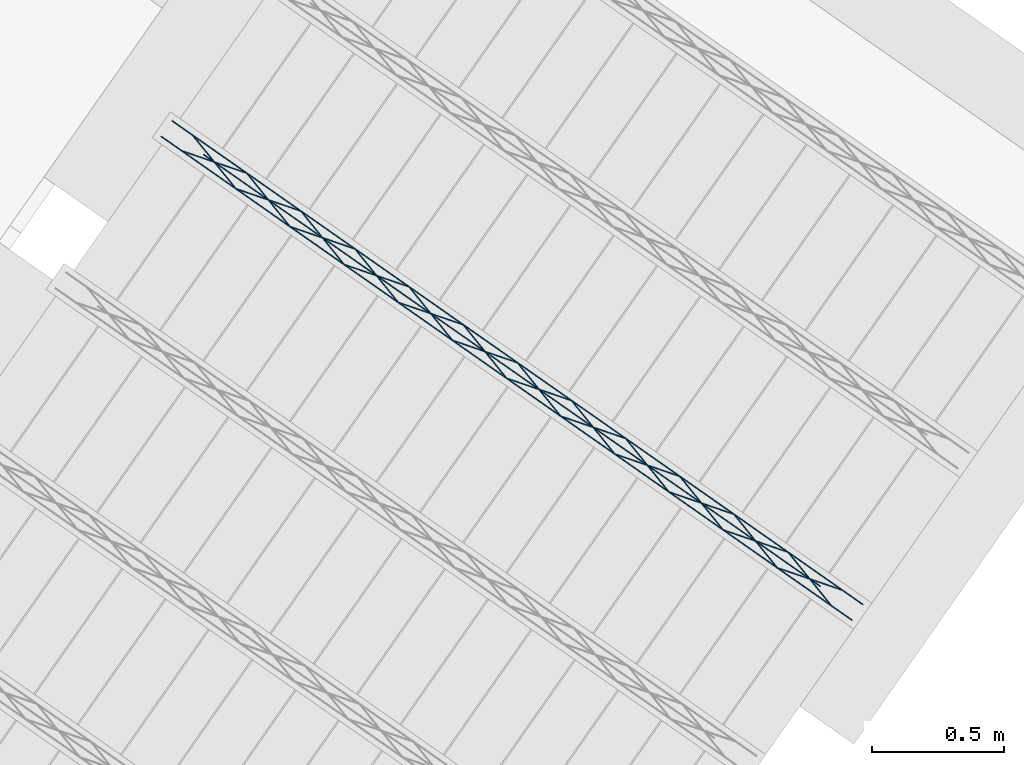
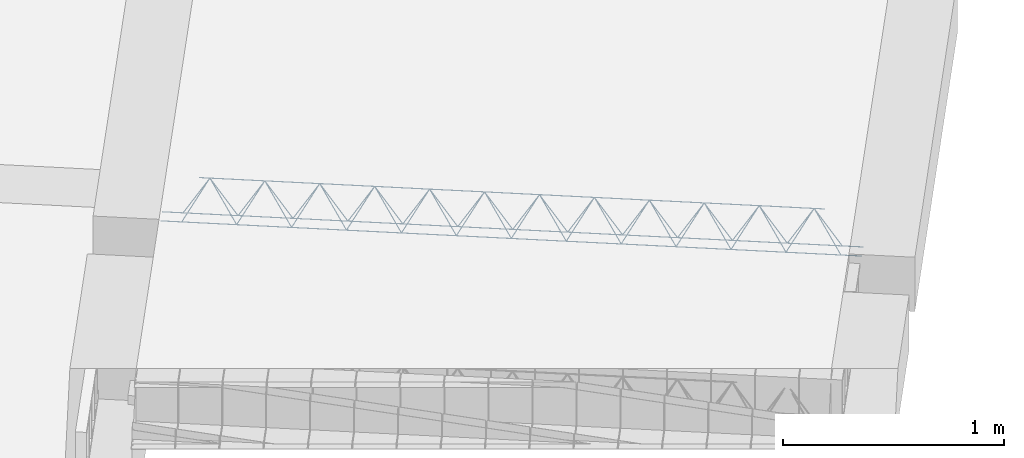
# One storey, part 13 of 46: 1 member.
"""IFC2X3 building model written with IfcOpenShell, lengths in metres."""

from ifc_helpers import new_model, entity, si_unit, converted_unit, derived_unit, direction, frame, origin, origin_2d_with_axis, place, context, subcontext, project, spatial, circle, extrude, type_object, element, save


model = new_model("IFC2X3")

# Units and contexts
model_context = context("Model", 3, precision=1e-05, world=origin(), true_north=direction((6.123031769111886e-17, 1.0)))
body_context = subcontext(model_context, "Body", "Model", "MODEL_VIEW")
ifc_project = project(units=[si_unit("LENGTHUNIT", "METRE"), si_unit("AREAUNIT", "SQUARE_METRE"), si_unit("VOLUMEUNIT", "CUBIC_METRE"), converted_unit("PLANEANGLEUNIT", "DEGREE", entity("IfcPlaneAngleMeasure", 0.017453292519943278), si_unit("PLANEANGLEUNIT", "RADIAN"), dimensions=[0, 0, 0, 0, 0, 0, 0]), si_unit("MASSUNIT", "GRAM", prefix="KILO"), derived_unit("MASSDENSITYUNIT", [(si_unit("MASSUNIT", "GRAM", prefix="KILO"), 1), (si_unit("LENGTHUNIT", "METRE"), -3)]), derived_unit("IONCONCENTRATIONUNIT", [(si_unit("MASSUNIT", "GRAM", prefix="KILO"), 1), (si_unit("LENGTHUNIT", "METRE"), -3)]), derived_unit("MOMENTOFINERTIAUNIT", [(si_unit("LENGTHUNIT", "METRE"), 4)]), si_unit("TIMEUNIT", "SECOND"), si_unit("FREQUENCYUNIT", "HERTZ"), si_unit("THERMODYNAMICTEMPERATUREUNIT", "DEGREE_CELSIUS"), derived_unit("THERMALTRANSMITTANCEUNIT", [(si_unit("MASSUNIT", "GRAM", prefix="KILO"), 1), (si_unit("THERMODYNAMICTEMPERATUREUNIT", "KELVIN"), -1), (si_unit("TIMEUNIT", "SECOND"), -3)]), derived_unit("THERMALCONDUCTANCEUNIT", [(si_unit("MASSUNIT", "GRAM", prefix="KILO"), 1), (si_unit("THERMODYNAMICTEMPERATUREUNIT", "KELVIN"), -1), (si_unit("TIMEUNIT", "SECOND"), -3), (si_unit("LENGTHUNIT", "METRE"), 1)]), derived_unit("VOLUMETRICFLOWRATEUNIT", [(si_unit("LENGTHUNIT", "METRE", prefix="DECI"), 3), (si_unit("TIMEUNIT", "SECOND"), -1)]), derived_unit("MASSFLOWRATEUNIT", [(si_unit("MASSUNIT", "GRAM", prefix="KILO"), 1), (si_unit("TIMEUNIT", "SECOND"), -1)]), derived_unit("ROTATIONALFREQUENCYUNIT", [(si_unit("TIMEUNIT", "SECOND"), -1)]), si_unit("ELECTRICCURRENTUNIT", "AMPERE"), si_unit("ELECTRICVOLTAGEUNIT", "VOLT"), si_unit("POWERUNIT", "WATT"), si_unit("FORCEUNIT", "NEWTON", prefix="KILO"), si_unit("ILLUMINANCEUNIT", "LUX"), si_unit("LUMINOUSFLUXUNIT", "LUMEN"), si_unit("LUMINOUSINTENSITYUNIT", "CANDELA"), si_unit("ENERGYUNIT", "JOULE"), derived_unit("USERDEFINED", [(si_unit("MASSUNIT", "GRAM", prefix="KILO"), -1), (si_unit("LENGTHUNIT", "METRE"), -2), (si_unit("TIMEUNIT", "SECOND"), 3), (si_unit("LUMINOUSFLUXUNIT", "LUMEN"), 1)]), derived_unit("USERDEFINED", [(si_unit("MASSUNIT", "GRAM", prefix="KILO"), 1), (si_unit("TIMEUNIT", "SECOND"), -3), (si_unit("LENGTHUNIT", "METRE"), 3), (si_unit("ELECTRICCURRENTUNIT", "AMPERE"), -2)]), derived_unit("SOUNDPOWERUNIT", [(si_unit("MASSUNIT", "GRAM", prefix="KILO"), 1), (si_unit("TIMEUNIT", "SECOND"), -3), (si_unit("LENGTHUNIT", "METRE"), 2)]), derived_unit("SOUNDPRESSUREUNIT", [(si_unit("MASSUNIT", "GRAM", prefix="KILO"), 1), (si_unit("LENGTHUNIT", "METRE"), -1), (si_unit("TIMEUNIT", "SECOND"), -2)]), derived_unit("LINEARVELOCITYUNIT", [(si_unit("LENGTHUNIT", "METRE"), 1), (si_unit("TIMEUNIT", "SECOND"), -1)]), si_unit("PRESSUREUNIT", "PASCAL"), derived_unit("USERDEFINED", [(si_unit("MASSUNIT", "GRAM", prefix="KILO"), 1), (si_unit("LENGTHUNIT", "METRE"), -2), (si_unit("TIMEUNIT", "SECOND"), -2)]), derived_unit("LINEARFORCEUNIT", [(si_unit("MASSUNIT", "GRAM", prefix="KILO"), 1), (si_unit("TIMEUNIT", "SECOND"), -2)]), derived_unit("PLANARFORCEUNIT", [(si_unit("MASSUNIT", "GRAM", prefix="KILO"), 1), (si_unit("LENGTHUNIT", "METRE"), -1), (si_unit("TIMEUNIT", "SECOND"), -2)]), derived_unit("SPECIFICHEATCAPACITYUNIT", [(si_unit("THERMODYNAMICTEMPERATUREUNIT", "KELVIN"), -1), (si_unit("LENGTHUNIT", "METRE"), 2), (si_unit("TIMEUNIT", "SECOND"), -2)]), derived_unit("HEATFLUXDENSITYUNIT", [(si_unit("MASSUNIT", "GRAM", prefix="KILO"), 1), (si_unit("TIMEUNIT", "SECOND"), -3)]), derived_unit("HEATINGVALUEUNIT", [(si_unit("LENGTHUNIT", "METRE"), 2), (si_unit("TIMEUNIT", "SECOND"), -2)]), derived_unit("VAPORPERMEABILITYUNIT", [(si_unit("LENGTHUNIT", "METRE"), -1), (si_unit("TIMEUNIT", "SECOND"), 1)]), derived_unit("DYNAMICVISCOSITYUNIT", [(si_unit("MASSUNIT", "GRAM", prefix="KILO"), 1), (si_unit("TIMEUNIT", "SECOND"), -1), (si_unit("LENGTHUNIT", "METRE"), -1)]), derived_unit("THERMALEXPANSIONCOEFFICIENTUNIT", [(si_unit("THERMODYNAMICTEMPERATUREUNIT", "KELVIN"), -1)]), derived_unit("MODULUSOFELASTICITYUNIT", [(si_unit("MASSUNIT", "GRAM", prefix="KILO"), 1), (si_unit("LENGTHUNIT", "METRE"), -1), (si_unit("TIMEUNIT", "SECOND"), -2)]), derived_unit("ISOTHERMALMOISTURECAPACITYUNIT", [(si_unit("MASSUNIT", "GRAM", prefix="KILO"), -1), (si_unit("LENGTHUNIT", "METRE"), 3)]), derived_unit("MOISTUREDIFFUSIVITYUNIT", [(si_unit("TIMEUNIT", "SECOND"), -1), (si_unit("LENGTHUNIT", "METRE"), 2)]), derived_unit("MASSPERLENGTHUNIT", [(si_unit("MASSUNIT", "GRAM", prefix="KILO"), 1), (si_unit("LENGTHUNIT", "METRE"), -1)]), derived_unit("THERMALRESISTANCEUNIT", [(si_unit("MASSUNIT", "GRAM", prefix="KILO"), -1), (si_unit("TIMEUNIT", "SECOND"), 3), (si_unit("THERMODYNAMICTEMPERATUREUNIT", "KELVIN"), 1)]), derived_unit("ACCELERATIONUNIT", [(si_unit("LENGTHUNIT", "METRE"), 1), (si_unit("TIMEUNIT", "SECOND"), -2)]), derived_unit("ANGULARVELOCITYUNIT", [(si_unit("TIMEUNIT", "SECOND"), -1), (si_unit("PLANEANGLEUNIT", "RADIAN"), 1)]), derived_unit("LINEARSTIFFNESSUNIT", [(si_unit("MASSUNIT", "GRAM", prefix="KILO"), 1), (si_unit("TIMEUNIT", "SECOND"), -2)]), derived_unit("WARPINGCONSTANTUNIT", [(si_unit("LENGTHUNIT", "METRE"), 6)]), derived_unit("LINEARMOMENTUNIT", [(si_unit("MASSUNIT", "GRAM", prefix="KILO"), 1), (si_unit("LENGTHUNIT", "METRE"), 1), (si_unit("TIMEUNIT", "SECOND"), -2)]), derived_unit("TORQUEUNIT", [(si_unit("MASSUNIT", "GRAM", prefix="KILO"), 1), (si_unit("LENGTHUNIT", "METRE"), 2), (si_unit("TIMEUNIT", "SECOND"), -2)])], contexts=[model_context])

# Site, building, storey
site_placement = place(None, origin())
site = spatial("IfcSite", under=ifc_project, at=site_placement, Name="Default", CompositionType="ELEMENT")
building_placement = place(site_placement, origin())
building = spatial("IfcBuilding", under=site, at=building_placement, CompositionType="ELEMENT")
storey_placement = place(building_placement, frame((0.0, 0.0, 99.52000000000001)))
storey = spatial("IfcBuildingStorey", under=building, at=storey_placement, Name="F1", CompositionType="ELEMENT", Elevation=99.52000000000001)

# Member
member_type = type_object("IfcMemberType", Name="Celosía (Vigueta 7 - Paño 4)", PredefinedType="NOTDEFINED")
member_placement = place(storey_placement, origin())
element("IfcMember", 1, at=member_placement, inside=storey, type_object=member_type, Name="Celosía (Vigueta 7 - Paño 4)", context=body_context, shape_type="SweptSolid", body=[
    extrude(circle(Radius=0.0025, at=origin_2d_with_axis()), frame((6.86345115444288, -0.39361636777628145, 0.22500000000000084), z_axis=(0.8191520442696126, -0.5735764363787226, 0.0), x_axis=(-0.5735764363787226, -0.8191520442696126, 0.0)), (0.0, 0.0, 1.0), 3.191999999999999),
    extrude(circle(Radius=0.0025, at=origin_2d_with_axis()), frame((7.024174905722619, -0.46220846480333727, 0.4500000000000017), z_axis=(0.8191520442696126, -0.5735764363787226, 0.0), x_axis=(-0.5735764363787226, -0.8191520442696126, 0.0)), (0.0, 0.0, 1.0), 2.849999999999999),
    extrude(circle(Radius=0.0025, at=origin_2d_with_axis()), frame((9.3995458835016, -2.169409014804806, 0.22500000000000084), z_axis=(-0.3145304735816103, 0.389334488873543, 0.8657304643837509), x_axis=(-0.7778747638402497, -0.6284193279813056, 0.0)), (0.0, 0.0, 1.0), 0.2598961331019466),
    extrude(circle(Radius=0.0025, at=origin_2d_with_axis()), frame((9.19475787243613, -2.026014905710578, 0.22499999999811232), z_axis=(0.47343050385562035, -0.1624017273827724, 0.8657304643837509), x_axis=(-0.3244721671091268, -0.9458952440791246, 0.0)), (0.0, 0.0, 1.0), 0.25989613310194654),
    extrude(circle(Radius=0.0025, at=origin_2d_with_axis()), frame((9.194757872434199, -2.026014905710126, 0.22500000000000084), z_axis=(-0.3145304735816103, 0.389334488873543, 0.8657304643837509), x_axis=(-0.7778747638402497, -0.6284193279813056, 0.0)), (0.0, 0.0, 1.0), 0.2598961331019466),
    extrude(circle(Radius=0.0025, at=origin_2d_with_axis()), frame((8.989969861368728, -1.882620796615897, 0.22499999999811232), z_axis=(0.47343050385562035, -0.1624017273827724, 0.8657304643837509), x_axis=(-0.3244721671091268, -0.9458952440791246, 0.0)), (0.0, 0.0, 1.0), 0.25989613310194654),
    extrude(circle(Radius=0.0025, at=origin_2d_with_axis()), frame((8.989969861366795, -1.8826207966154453, 0.22500000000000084), z_axis=(-0.3145304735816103, 0.389334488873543, 0.8657304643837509), x_axis=(-0.7778747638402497, -0.6284193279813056, 0.0)), (0.0, 0.0, 1.0), 0.2598961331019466),
    extrude(circle(Radius=0.0025, at=origin_2d_with_axis()), frame((8.785181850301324, -1.7392266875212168, 0.22499999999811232), z_axis=(0.47343050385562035, -0.1624017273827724, 0.8657304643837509), x_axis=(-0.3244721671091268, -0.9458952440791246, 0.0)), (0.0, 0.0, 1.0), 0.25989613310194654),
    extrude(circle(Radius=0.0025, at=origin_2d_with_axis()), frame((8.785181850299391, -1.7392266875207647, 0.22500000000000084), z_axis=(-0.3145304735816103, 0.389334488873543, 0.8657304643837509), x_axis=(-0.7778747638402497, -0.6284193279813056, 0.0)), (0.0, 0.0, 1.0), 0.2598961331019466),
    extrude(circle(Radius=0.0025, at=origin_2d_with_axis()), frame((8.580393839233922, -1.595832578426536, 0.22499999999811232), z_axis=(0.47343050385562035, -0.1624017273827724, 0.8657304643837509), x_axis=(-0.3244721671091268, -0.9458952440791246, 0.0)), (0.0, 0.0, 1.0), 0.25989613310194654),
    extrude(circle(Radius=0.0025, at=origin_2d_with_axis()), frame((8.580393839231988, -1.5958325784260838, 0.22500000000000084), z_axis=(-0.3145304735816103, 0.389334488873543, 0.8657304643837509), x_axis=(-0.7778747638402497, -0.6284193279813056, 0.0)), (0.0, 0.0, 1.0), 0.2598961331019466),
    extrude(circle(Radius=0.0025, at=origin_2d_with_axis()), frame((8.375605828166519, -1.4524384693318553, 0.22499999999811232), z_axis=(0.47343050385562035, -0.1624017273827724, 0.8657304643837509), x_axis=(-0.3244721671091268, -0.9458952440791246, 0.0)), (0.0, 0.0, 1.0), 0.25989613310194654),
    extrude(circle(Radius=0.0025, at=origin_2d_with_axis()), frame((8.375605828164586, -1.4524384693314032, 0.22500000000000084), z_axis=(-0.3145304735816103, 0.389334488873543, 0.8657304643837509), x_axis=(-0.7778747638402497, -0.6284193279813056, 0.0)), (0.0, 0.0, 1.0), 0.2598961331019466),
    extrude(circle(Radius=0.0025, at=origin_2d_with_axis()), frame((8.170817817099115, -1.3090443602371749, 0.22499999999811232), z_axis=(0.47343050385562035, -0.1624017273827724, 0.8657304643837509), x_axis=(-0.3244721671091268, -0.9458952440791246, 0.0)), (0.0, 0.0, 1.0), 0.25989613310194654),
    extrude(circle(Radius=0.0025, at=origin_2d_with_axis()), frame((8.170817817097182, -1.3090443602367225, 0.22500000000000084), z_axis=(-0.3145304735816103, 0.389334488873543, 0.8657304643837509), x_axis=(-0.7778747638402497, -0.6284193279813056, 0.0)), (0.0, 0.0, 1.0), 0.2598961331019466),
    extrude(circle(Radius=0.0025, at=origin_2d_with_axis()), frame((7.966029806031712, -1.165650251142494, 0.22499999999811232), z_axis=(0.47343050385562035, -0.1624017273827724, 0.8657304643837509), x_axis=(-0.3244721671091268, -0.9458952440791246, 0.0)), (0.0, 0.0, 1.0), 0.25989613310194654),
    extrude(circle(Radius=0.0025, at=origin_2d_with_axis()), frame((7.966029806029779, -1.165650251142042, 0.22500000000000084), z_axis=(-0.3145304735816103, 0.389334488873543, 0.8657304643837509), x_axis=(-0.7778747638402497, -0.6284193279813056, 0.0)), (0.0, 0.0, 1.0), 0.2598961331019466),
    extrude(circle(Radius=0.0025, at=origin_2d_with_axis()), frame((7.761241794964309, -1.0222561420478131, 0.22499999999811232), z_axis=(0.47343050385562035, -0.1624017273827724, 0.8657304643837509), x_axis=(-0.3244721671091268, -0.9458952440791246, 0.0)), (0.0, 0.0, 1.0), 0.25989613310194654),
    extrude(circle(Radius=0.0025, at=origin_2d_with_axis()), frame((7.761241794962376, -1.0222561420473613, 0.22500000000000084), z_axis=(-0.3145304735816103, 0.389334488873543, 0.8657304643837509), x_axis=(-0.7778747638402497, -0.6284193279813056, 0.0)), (0.0, 0.0, 1.0), 0.2598961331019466),
    extrude(circle(Radius=0.0025, at=origin_2d_with_axis()), frame((7.556453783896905, -0.8788620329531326, 0.22499999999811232), z_axis=(0.47343050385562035, -0.1624017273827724, 0.8657304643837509), x_axis=(-0.3244721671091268, -0.9458952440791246, 0.0)), (0.0, 0.0, 1.0), 0.25989613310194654),
    extrude(circle(Radius=0.0025, at=origin_2d_with_axis()), frame((7.556453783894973, -0.8788620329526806, 0.22500000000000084), z_axis=(-0.3145304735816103, 0.389334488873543, 0.8657304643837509), x_axis=(-0.7778747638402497, -0.6284193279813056, 0.0)), (0.0, 0.0, 1.0), 0.2598961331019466),
    extrude(circle(Radius=0.0025, at=origin_2d_with_axis()), frame((7.351665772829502, -0.735467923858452, 0.22499999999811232), z_axis=(0.47343050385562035, -0.1624017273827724, 0.8657304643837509), x_axis=(-0.3244721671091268, -0.9458952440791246, 0.0)), (0.0, 0.0, 1.0), 0.25989613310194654),
    extrude(circle(Radius=0.0025, at=origin_2d_with_axis()), frame((7.3516657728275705, -0.7354679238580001, 0.22500000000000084), z_axis=(-0.3145304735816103, 0.389334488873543, 0.8657304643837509), x_axis=(-0.7778747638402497, -0.6284193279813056, 0.0)), (0.0, 0.0, 1.0), 0.2598961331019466),
    extrude(circle(Radius=0.0025, at=origin_2d_with_axis()), frame((7.1468777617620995, -0.5920738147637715, 0.22499999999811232), z_axis=(0.47343050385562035, -0.1624017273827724, 0.8657304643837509), x_axis=(-0.3244721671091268, -0.9458952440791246, 0.0)), (0.0, 0.0, 1.0), 0.25989613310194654),
    extrude(circle(Radius=0.0025, at=origin_2d_with_axis()), frame((7.146877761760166, -0.5920738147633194, 0.22500000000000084), z_axis=(-0.3145304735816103, 0.389334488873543, 0.8657304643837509), x_axis=(-0.7778747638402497, -0.6284193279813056, 0.0)), (0.0, 0.0, 1.0), 0.2598961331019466),
    extrude(circle(Radius=0.0025, at=origin_2d_with_axis()), frame((6.942089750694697, -0.44867970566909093, 0.22499999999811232), z_axis=(0.47343050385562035, -0.1624017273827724, 0.8657304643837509), x_axis=(-0.3244721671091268, -0.9458952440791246, 0.0)), (0.0, 0.0, 1.0), 0.25989613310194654),
    extrude(circle(Radius=0.0025, at=origin_2d_with_axis()), frame((6.904748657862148, -0.33463742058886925, 0.22500000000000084), z_axis=(0.8191520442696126, -0.5735764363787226, 0.0), x_axis=(-0.5735764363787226, -0.8191520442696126, 0.0)), (0.0, 0.0, 1.0), 3.191999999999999),
    extrude(circle(Radius=0.0025, at=origin_2d_with_axis()), frame((9.44084338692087, -2.1104300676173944, 0.22500000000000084), z_axis=(-0.47343050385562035, 0.1624017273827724, 0.8657304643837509), x_axis=(-0.3244721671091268, -0.9458952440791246, 0.0)), (0.0, 0.0, 1.0), 0.25989613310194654),
    extrude(circle(Radius=0.0025, at=origin_2d_with_axis()), frame((9.236055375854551, -1.9670359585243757, 0.22499999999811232), z_axis=(0.3145304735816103, -0.389334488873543, 0.8657304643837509), x_axis=(-0.7778747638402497, -0.6284193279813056, 0.0)), (0.0, 0.0, 1.0), 0.2598961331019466),
    extrude(circle(Radius=0.0025, at=origin_2d_with_axis()), frame((9.236055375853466, -1.9670359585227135, 0.22500000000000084), z_axis=(-0.47343050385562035, 0.1624017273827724, 0.8657304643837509), x_axis=(-0.3244721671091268, -0.9458952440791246, 0.0)), (0.0, 0.0, 1.0), 0.25989613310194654),
    extrude(circle(Radius=0.0025, at=origin_2d_with_axis()), frame((9.031267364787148, -1.8236418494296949, 0.22499999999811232), z_axis=(0.3145304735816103, -0.389334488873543, 0.8657304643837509), x_axis=(-0.7778747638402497, -0.6284193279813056, 0.0)), (0.0, 0.0, 1.0), 0.2598961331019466),
    extrude(circle(Radius=0.0025, at=origin_2d_with_axis()), frame((9.031267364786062, -1.823641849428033, 0.22500000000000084), z_axis=(-0.47343050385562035, 0.1624017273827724, 0.8657304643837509), x_axis=(-0.3244721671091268, -0.9458952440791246, 0.0)), (0.0, 0.0, 1.0), 0.25989613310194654),
    extrude(circle(Radius=0.0025, at=origin_2d_with_axis()), frame((8.826479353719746, -1.6802477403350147, 0.22499999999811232), z_axis=(0.3145304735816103, -0.389334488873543, 0.8657304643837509), x_axis=(-0.7778747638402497, -0.6284193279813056, 0.0)), (0.0, 0.0, 1.0), 0.2598961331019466),
    extrude(circle(Radius=0.0025, at=origin_2d_with_axis()), frame((8.826479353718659, -1.6802477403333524, 0.22500000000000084), z_axis=(-0.47343050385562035, 0.1624017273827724, 0.8657304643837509), x_axis=(-0.3244721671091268, -0.9458952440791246, 0.0)), (0.0, 0.0, 1.0), 0.25989613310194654),
    extrude(circle(Radius=0.0025, at=origin_2d_with_axis()), frame((8.621691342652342, -1.5368536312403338, 0.22499999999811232), z_axis=(0.3145304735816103, -0.389334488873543, 0.8657304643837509), x_axis=(-0.7778747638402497, -0.6284193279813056, 0.0)), (0.0, 0.0, 1.0), 0.2598961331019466),
    extrude(circle(Radius=0.0025, at=origin_2d_with_axis()), frame((8.621691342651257, -1.5368536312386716, 0.22500000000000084), z_axis=(-0.47343050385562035, 0.1624017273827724, 0.8657304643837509), x_axis=(-0.3244721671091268, -0.9458952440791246, 0.0)), (0.0, 0.0, 1.0), 0.25989613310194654),
    extrude(circle(Radius=0.0025, at=origin_2d_with_axis()), frame((8.41690333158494, -1.393459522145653, 0.22499999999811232), z_axis=(0.3145304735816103, -0.389334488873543, 0.8657304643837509), x_axis=(-0.7778747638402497, -0.6284193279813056, 0.0)), (0.0, 0.0, 1.0), 0.2598961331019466),
    extrude(circle(Radius=0.0025, at=origin_2d_with_axis()), frame((8.416903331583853, -1.393459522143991, 0.22500000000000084), z_axis=(-0.47343050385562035, 0.1624017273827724, 0.8657304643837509), x_axis=(-0.3244721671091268, -0.9458952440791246, 0.0)), (0.0, 0.0, 1.0), 0.25989613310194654),
    extrude(circle(Radius=0.0025, at=origin_2d_with_axis()), frame((8.212115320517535, -1.2500654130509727, 0.22499999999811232), z_axis=(0.3145304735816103, -0.389334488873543, 0.8657304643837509), x_axis=(-0.7778747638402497, -0.6284193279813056, 0.0)), (0.0, 0.0, 1.0), 0.2598961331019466),
    extrude(circle(Radius=0.0025, at=origin_2d_with_axis()), frame((8.21211532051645, -1.2500654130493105, 0.22500000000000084), z_axis=(-0.47343050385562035, 0.1624017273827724, 0.8657304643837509), x_axis=(-0.3244721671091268, -0.9458952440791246, 0.0)), (0.0, 0.0, 1.0), 0.25989613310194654),
    extrude(circle(Radius=0.0025, at=origin_2d_with_axis()), frame((8.007327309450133, -1.1066713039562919, 0.22499999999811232), z_axis=(0.3145304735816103, -0.389334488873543, 0.8657304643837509), x_axis=(-0.7778747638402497, -0.6284193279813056, 0.0)), (0.0, 0.0, 1.0), 0.2598961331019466),
    extrude(circle(Radius=0.0025, at=origin_2d_with_axis()), frame((8.007327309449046, -1.1066713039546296, 0.22500000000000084), z_axis=(-0.47343050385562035, 0.1624017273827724, 0.8657304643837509), x_axis=(-0.3244721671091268, -0.9458952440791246, 0.0)), (0.0, 0.0, 1.0), 0.25989613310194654),
    extrude(circle(Radius=0.0025, at=origin_2d_with_axis()), frame((7.8025392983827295, -0.9632771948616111, 0.22499999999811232), z_axis=(0.3145304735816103, -0.389334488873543, 0.8657304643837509), x_axis=(-0.7778747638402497, -0.6284193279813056, 0.0)), (0.0, 0.0, 1.0), 0.2598961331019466),
    extrude(circle(Radius=0.0025, at=origin_2d_with_axis()), frame((7.802539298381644, -0.9632771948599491, 0.22500000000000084), z_axis=(-0.47343050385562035, 0.1624017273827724, 0.8657304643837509), x_axis=(-0.3244721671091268, -0.9458952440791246, 0.0)), (0.0, 0.0, 1.0), 0.25989613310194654),
    extrude(circle(Radius=0.0025, at=origin_2d_with_axis()), frame((7.597751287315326, -0.8198830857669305, 0.22499999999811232), z_axis=(0.3145304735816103, -0.389334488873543, 0.8657304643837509), x_axis=(-0.7778747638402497, -0.6284193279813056, 0.0)), (0.0, 0.0, 1.0), 0.2598961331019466),
    extrude(circle(Radius=0.0025, at=origin_2d_with_axis()), frame((7.5977512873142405, -0.8198830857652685, 0.22500000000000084), z_axis=(-0.47343050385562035, 0.1624017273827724, 0.8657304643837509), x_axis=(-0.3244721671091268, -0.9458952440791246, 0.0)), (0.0, 0.0, 1.0), 0.25989613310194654),
    extrude(circle(Radius=0.0025, at=origin_2d_with_axis()), frame((7.392963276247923, -0.6764889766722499, 0.22499999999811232), z_axis=(0.3145304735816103, -0.389334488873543, 0.8657304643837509), x_axis=(-0.7778747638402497, -0.6284193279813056, 0.0)), (0.0, 0.0, 1.0), 0.2598961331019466),
    extrude(circle(Radius=0.0025, at=origin_2d_with_axis()), frame((7.392963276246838, -0.6764889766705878, 0.22500000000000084), z_axis=(-0.47343050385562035, 0.1624017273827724, 0.8657304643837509), x_axis=(-0.3244721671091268, -0.9458952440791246, 0.0)), (0.0, 0.0, 1.0), 0.25989613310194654),
    extrude(circle(Radius=0.0025, at=origin_2d_with_axis()), frame((7.18817526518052, -0.5330948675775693, 0.22499999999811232), z_axis=(0.3145304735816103, -0.389334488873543, 0.8657304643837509), x_axis=(-0.7778747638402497, -0.6284193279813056, 0.0)), (0.0, 0.0, 1.0), 0.2598961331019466),
    extrude(circle(Radius=0.0025, at=origin_2d_with_axis()), frame((7.188175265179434, -0.5330948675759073, 0.22500000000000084), z_axis=(-0.47343050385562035, 0.1624017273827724, 0.8657304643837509), x_axis=(-0.3244721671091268, -0.9458952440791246, 0.0)), (0.0, 0.0, 1.0), 0.25989613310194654),
    extrude(circle(Radius=0.0025, at=origin_2d_with_axis()), frame((6.983387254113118, -0.38970075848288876, 0.22499999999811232), z_axis=(0.3145304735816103, -0.389334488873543, 0.8657304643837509), x_axis=(-0.7778747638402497, -0.6284193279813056, 0.0)), (0.0, 0.0, 1.0), 0.2598961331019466),
])

save(model, "model.ifc")
